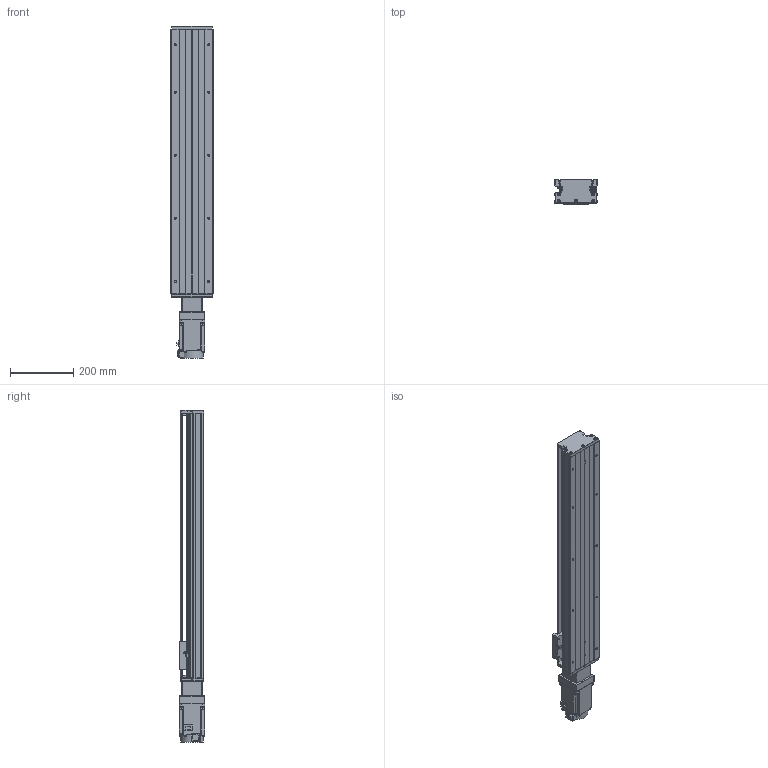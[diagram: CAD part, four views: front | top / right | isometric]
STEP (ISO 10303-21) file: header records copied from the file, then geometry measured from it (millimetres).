
FILE_DESCRIPTION (( 'STEP AP203' ), '1' );
FILE_NAME ('KTH130-700-BC-M75-C4.step', '2023-06-30T04:18:33', ( '微软用户' ), ( '微软中国' ), 'SwSTEP 2.0', 'SolidWorks 2020', '' );
FILE_SCHEMA (( 'CONFIG_CONTROL_DESIGN' ));
Length unit declared in the file: millimetre
Products named in the file (19): CTHA86-027-1; KTH130-005; GBT 70.1-M3℅5; hg-kn73j_-s100; GB1155-6X6; GBT77-2000 M3×3; KTH130-700-BC-M75-C4; GBT70.1 M5℅16; す晦芛蹟隊 M3℅5; GBT 70.2-M3¡Á5_M3¡Á6; GBT 70.3-M3℅8; GTH14-001_700; CTHA60-017; CTHA86-006-1_M75; KTH130-002_KTH130-002; EE_SX911P_R; CTHA86-013; KTH130-004; CTHA60-016
Assembly tree (52 placements, depth 2):
  KTH130-700-BC-M75-C4
    GTH14-001_700
    KTH130-002_KTH130-002
    KTH130-004
    KTH130-005
    GB1155-6X6  x2
    GBT70.1 M5℅16  x10
    GBT 70.2-M3¡Á5_M3¡Á6  x4
    CTHA60-017  x3
    EE_SX911P_R  x3
    CTHA60-016  x2
    GBT 70.1-M3℅5  x6
    GBT77-2000 M3×3  x6
    す晦芛蹟隊 M3℅5  x2
    GBT 70.3-M3℅8  x6
    CTHA86-006-1_M75
    CTHA86-013
    CTHA86-027-1
    hg-kn73j_-s100
Bounding box: 135 x 80.44 x 1053.2 mm (x, y, z)
Volume: 5672023.4 mm3; surface area: 831742 mm2
Topology: 55 solids, 55 shells, 2260 faces, 5432 edges, 3383 vertices
Faces by surface type: plane 1242, cylinder 622, cone 280, torus 104, sphere 12
Entity records: 40154 total; most frequent: CARTESIAN_POINT 6631, DIRECTION 6611, ORIENTED_EDGE 6148, EDGE_CURVE 3074, AXIS2_PLACEMENT_3D 2299, LINE 2013, VECTOR 2013, VERTEX_POINT 1955
